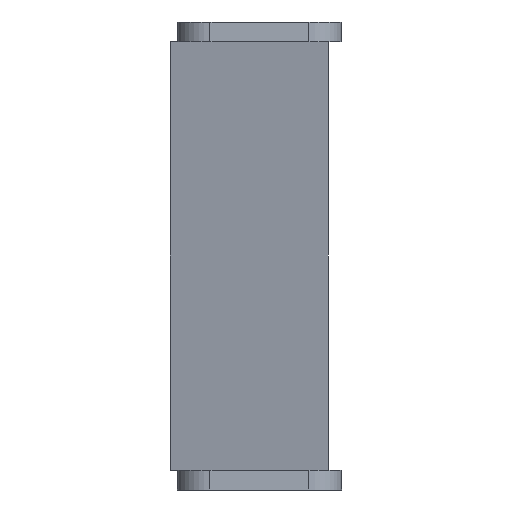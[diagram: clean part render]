
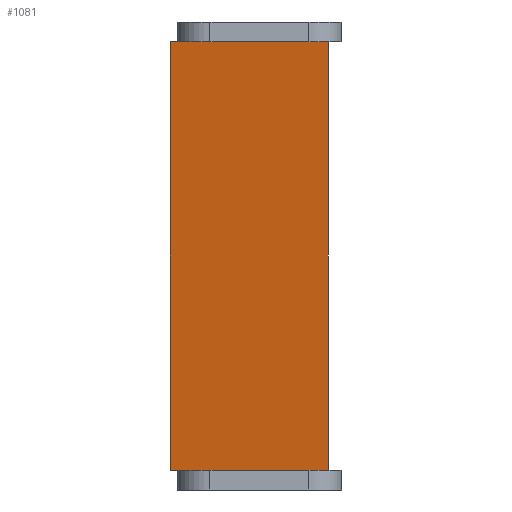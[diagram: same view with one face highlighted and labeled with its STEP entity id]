
A CAD part, left-side view. The second image highlights one B-rep face of the part: STEP entity #1081.
In plain terms, the highlighted planar face has unit normal (-0.471, -0.882, 0).
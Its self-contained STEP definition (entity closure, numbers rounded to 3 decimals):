
#191 = CARTESIAN_POINT ( 'NONE',  ( 292.636, -22.946, 118.406 ) ) ;
#202 = DIRECTION ( 'NONE',  ( -0.882, 0.471, 0. ) ) ;
#348 = VECTOR ( 'NONE', #4080, 1000. ) ;
#532 = PLANE ( 'NONE',  #4551 ) ;
#738 = CARTESIAN_POINT ( 'NONE',  ( 292.636, -22.946, 0. ) ) ;
#776 = VERTEX_POINT ( 'NONE', #4266 ) ;
#891 = CARTESIAN_POINT ( 'NONE',  ( 292.636, -22.946, 118.406 ) ) ;
#981 = EDGE_LOOP ( 'NONE', ( #2223, #4593, #4518, #2888 ) ) ;
#1081 = ADVANCED_FACE ( 'NONE', ( #4166 ), #532, .F. ) ;
#1129 = EDGE_CURVE ( 'NONE', #4020, #776, #1501, .T. ) ;
#1221 = VERTEX_POINT ( 'NONE', #1705 ) ;
#1501 = LINE ( 'NONE', #191, #348 ) ;
#1528 = LINE ( 'NONE', #1565, #4373 ) ;
#1565 = CARTESIAN_POINT ( 'NONE',  ( 292.636, -22.946, -65. ) ) ;
#1705 = CARTESIAN_POINT ( 'NONE',  ( 247.725, 1.04, -65. ) ) ;
#1737 = VERTEX_POINT ( 'NONE', #1933 ) ;
#1809 = EDGE_CURVE ( 'NONE', #1737, #1221, #3195, .T. ) ;
#1933 = CARTESIAN_POINT ( 'NONE',  ( 247.725, 1.04, 0. ) ) ;
#2033 = EDGE_CURVE ( 'NONE', #1737, #4020, #2746, .T. ) ;
#2223 = ORIENTED_EDGE ( 'NONE', *, *, #2033, .F. ) ;
#2270 = DIRECTION ( 'NONE',  ( 0.882, -0.471, 0. ) ) ;
#2277 = EDGE_CURVE ( 'NONE', #1221, #776, #1528, .T. ) ;
#2312 = CARTESIAN_POINT ( 'NONE',  ( 247.725, 1.04, 118.406 ) ) ;
#2696 = DIRECTION ( 'NONE',  ( 0.471, 0.882, 0. ) ) ;
#2717 = DIRECTION ( 'NONE',  ( 0., 0., -1. ) ) ;
#2746 = LINE ( 'NONE', #3871, #3916 ) ;
#2888 = ORIENTED_EDGE ( 'NONE', *, *, #1129, .F. ) ;
#3133 = DIRECTION ( 'NONE',  ( 0.882, -0.471, 0. ) ) ;
#3195 = LINE ( 'NONE', #2312, #4325 ) ;
#3871 = CARTESIAN_POINT ( 'NONE',  ( 292.636, -22.946, 0. ) ) ;
#3916 = VECTOR ( 'NONE', #3133, 1000. ) ;
#4020 = VERTEX_POINT ( 'NONE', #738 ) ;
#4080 = DIRECTION ( 'NONE',  ( 0., 0., -1. ) ) ;
#4166 = FACE_OUTER_BOUND ( 'NONE', #981, .T. ) ;
#4266 = CARTESIAN_POINT ( 'NONE',  ( 292.636, -22.946, -65. ) ) ;
#4325 = VECTOR ( 'NONE', #2717, 1000. ) ;
#4373 = VECTOR ( 'NONE', #2270, 1000. ) ;
#4518 = ORIENTED_EDGE ( 'NONE', *, *, #2277, .T. ) ;
#4551 = AXIS2_PLACEMENT_3D ( 'NONE', #891, #2696, #202 ) ;
#4593 = ORIENTED_EDGE ( 'NONE', *, *, #1809, .T. ) ;
